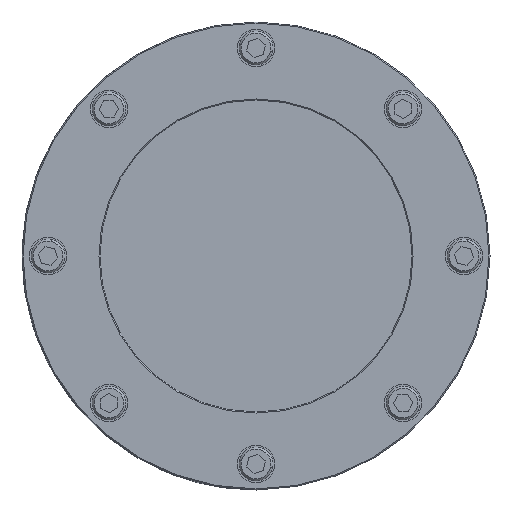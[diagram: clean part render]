
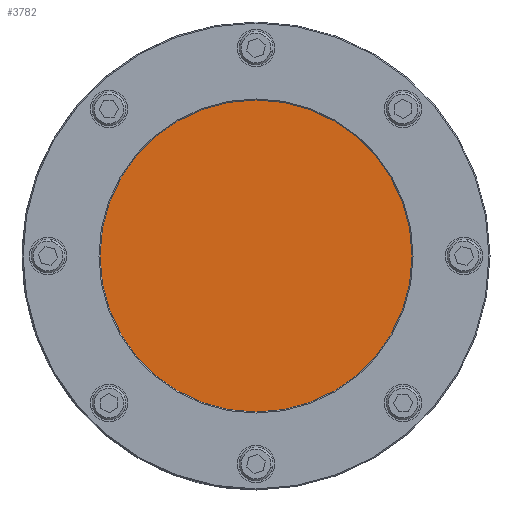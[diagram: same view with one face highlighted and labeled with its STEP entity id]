
A CAD part, front view. The second image highlights one B-rep face of the part: STEP entity #3782.
In plain terms, the highlighted planar face has unit normal (0, -1, 0).
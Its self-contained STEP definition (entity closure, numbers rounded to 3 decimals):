
#75 = FACE_OUTER_BOUND ( 'NONE', #3214, .T. ) ;
#478 = ORIENTED_EDGE ( 'NONE', *, *, #2868, .T. ) ;
#548 = CIRCLE ( 'NONE', #819, 83.35 ) ;
#550 = CARTESIAN_POINT ( 'NONE',  ( 0., 0., 0. ) ) ;
#708 = AXIS2_PLACEMENT_3D ( 'NONE', #550, #1593, #1925 ) ;
#819 = AXIS2_PLACEMENT_3D ( 'NONE', #4070, #3054, #1717 ) ;
#920 = DIRECTION ( 'NONE',  ( 0., -1., 0. ) ) ;
#928 = EDGE_CURVE ( 'NONE', #3110, #3148, #1422, .T. ) ;
#947 = PLANE ( 'NONE',  #708 ) ;
#1422 = CIRCLE ( 'NONE', #3320, 83.35 ) ;
#1593 = DIRECTION ( 'NONE',  ( 0., 1., 0. ) ) ;
#1717 = DIRECTION ( 'NONE',  ( 0., 0., 1. ) ) ;
#1893 = DIRECTION ( 'NONE',  ( 0., 0., 1. ) ) ;
#1925 = DIRECTION ( 'NONE',  ( 0., 0., 1. ) ) ;
#2144 = CARTESIAN_POINT ( 'NONE',  ( 0., 0., -83.35 ) ) ;
#2868 = EDGE_CURVE ( 'NONE', #3148, #3110, #548, .T. ) ;
#3054 = DIRECTION ( 'NONE',  ( 0., -1., 0. ) ) ;
#3110 = VERTEX_POINT ( 'NONE', #3822 ) ;
#3148 = VERTEX_POINT ( 'NONE', #2144 ) ;
#3214 = EDGE_LOOP ( 'NONE', ( #3390, #478 ) ) ;
#3320 = AXIS2_PLACEMENT_3D ( 'NONE', #4205, #920, #1893 ) ;
#3390 = ORIENTED_EDGE ( 'NONE', *, *, #928, .T. ) ;
#3782 = ADVANCED_FACE ( 'NONE', ( #75 ), #947, .F. ) ;
#3822 = CARTESIAN_POINT ( 'NONE',  ( 0., 0., 83.35 ) ) ;
#4070 = CARTESIAN_POINT ( 'NONE',  ( 0., 0., 0. ) ) ;
#4205 = CARTESIAN_POINT ( 'NONE',  ( 0., 0., 0. ) ) ;
